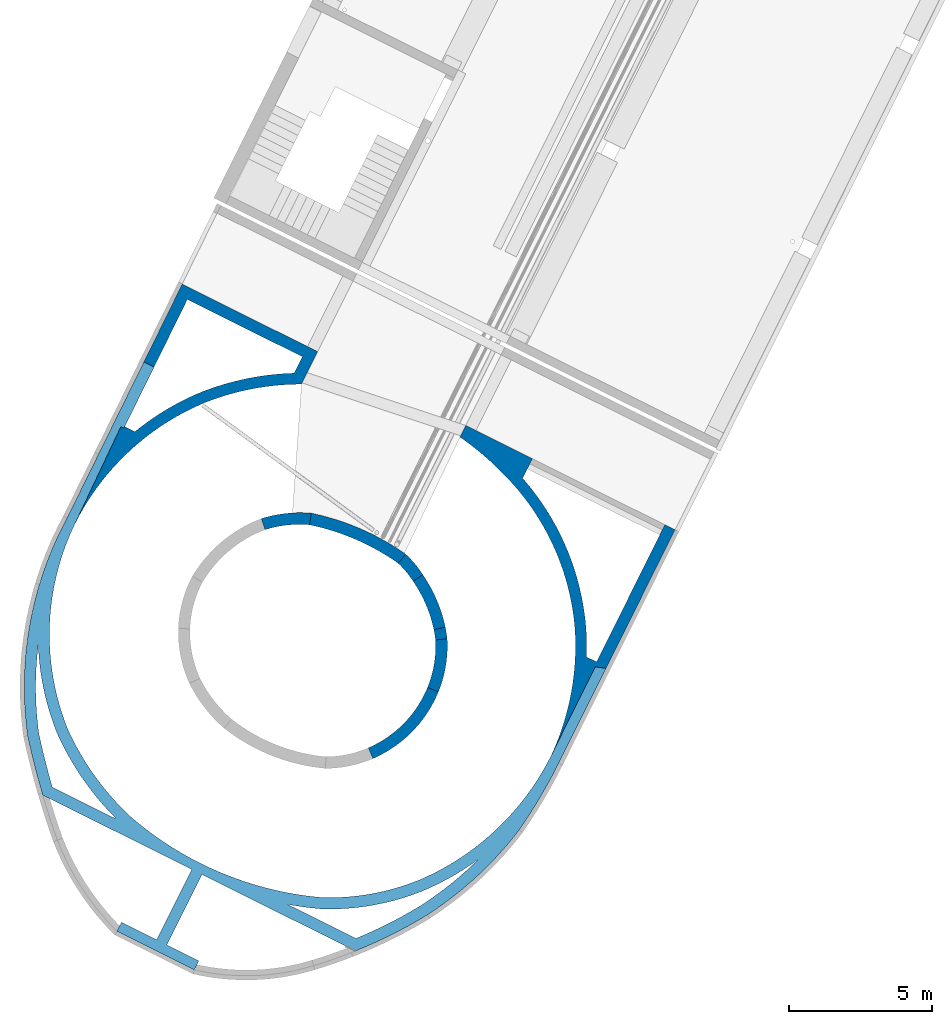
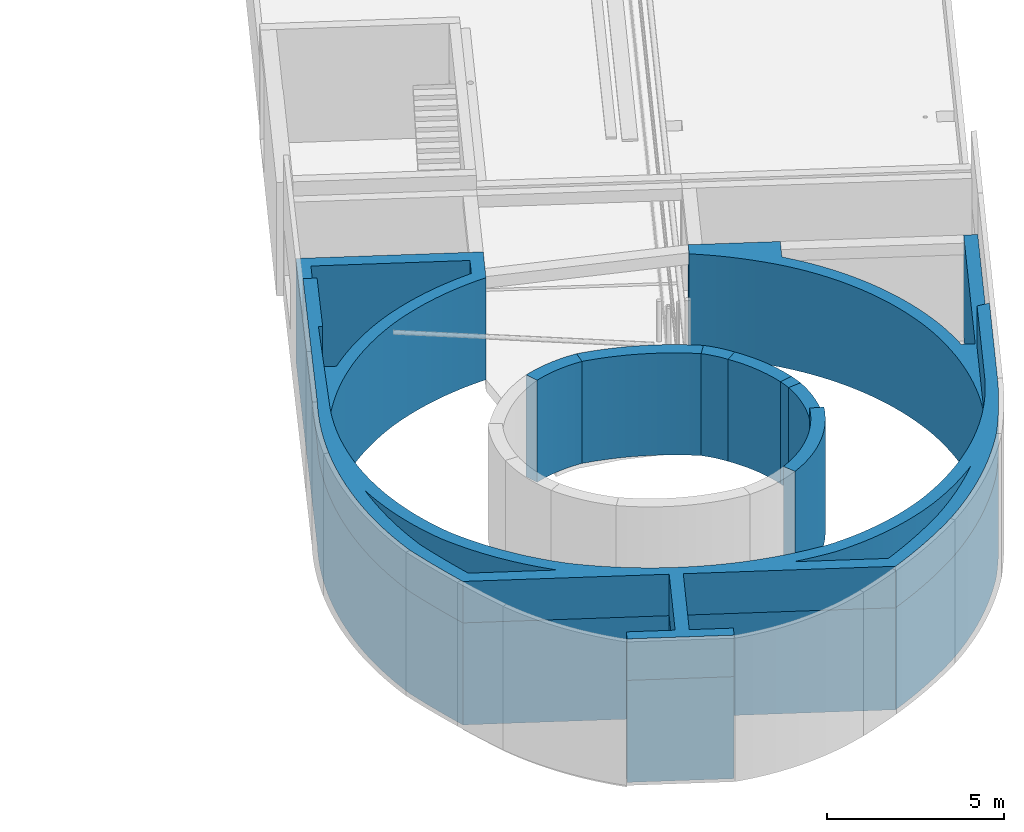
# One storey, part 6 of 47: 9 walls, 5 openings.
"""IFC2X3 building model written with IfcOpenShell, lengths in metres."""

from ifc_helpers import new_model, entity, si_unit, converted_unit, derived_unit, direction, frame, frame_2d, origin, place, context, subcontext, project, spatial, polyline, circle_curve, parameter, trimmed, segment, composite_curve, outline, extrude, material, layer, layer_set, layer_usage, type_object, element, save


model = new_model("IFC2X3")

# Units and contexts
model_context = context("Model", 3, precision=1e-05, world=origin(), true_north=direction((0.894925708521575, 0.446215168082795)))
context_of_model = context(None, 3, precision=1e-05, world=origin(), true_north=direction((0.894925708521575, 0.446215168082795)))
body_context = subcontext(model_context, "Body", "Model", "MODEL_VIEW")
ifc_project = project(units=[si_unit("LENGTHUNIT", "METRE"), si_unit("AREAUNIT", "SQUARE_METRE"), si_unit("VOLUMEUNIT", "CUBIC_METRE"), converted_unit("PLANEANGLEUNIT", "DEGREE", entity("IfcRatioMeasure", 0.0174532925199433), si_unit("PLANEANGLEUNIT", "RADIAN"), dimensions=[0, 0, 0, 0, 0, 0, 0]), si_unit("MASSUNIT", "GRAM", prefix="KILO"), si_unit("TIMEUNIT", "SECOND"), si_unit("FREQUENCYUNIT", "HERTZ"), si_unit("THERMODYNAMICTEMPERATUREUNIT", "DEGREE_CELSIUS"), derived_unit("THERMALTRANSMITTANCEUNIT", [(si_unit("MASSUNIT", "GRAM", prefix="KILO"), 1), (si_unit("THERMODYNAMICTEMPERATUREUNIT", "KELVIN"), -1), (si_unit("TIMEUNIT", "SECOND"), -3)]), derived_unit("VOLUMETRICFLOWRATEUNIT", [(si_unit("LENGTHUNIT", "METRE"), 3), (si_unit("TIMEUNIT", "SECOND"), -1)]), si_unit("ELECTRICCURRENTUNIT", "AMPERE"), si_unit("ELECTRICVOLTAGEUNIT", "VOLT"), si_unit("POWERUNIT", "WATT"), si_unit("FORCEUNIT", "NEWTON", prefix="KILO"), si_unit("ILLUMINANCEUNIT", "LUX"), si_unit("LUMINOUSFLUXUNIT", "LUMEN"), si_unit("LUMINOUSINTENSITYUNIT", "CANDELA"), si_unit("PRESSUREUNIT", "PASCAL")], contexts=[model_context, context_of_model])

# Site, building, storey
site_placement = place(None, frame((218.228324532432, 584.720189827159, 0.0), z_axis=(0.0, 0.0, 1.0), x_axis=(0.446215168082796, 0.894925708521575, 0.0)))
site = spatial("IfcSite", under=ifc_project, at=site_placement, Name="Default", CompositionType="ELEMENT")
building_placement = place(site_placement, origin())
building = spatial("IfcBuilding", under=site, at=building_placement, CompositionType="ELEMENT")
storey_placement = place(building_placement, frame((0.0, 0.0, 4.69)))
storey = spatial("IfcBuildingStorey", under=building, at=storey_placement, Name="1 - Piano Primo", CompositionType="ELEMENT", Elevation=4.69)

# Walls
ifc_material_1 = material(Name="Intonaco - Bianco")
ifc_layer_1 = layer(ifc_material_1, 0.01)
ifc_material_2 = material(Name="Default - Calcestruzzo")
ifc_layer_2 = layer(ifc_material_2, 0.4)
ifc_layer_set = layer_set([ifc_layer_1, ifc_layer_2], Name="Muro di base:Setto CA intonacato int - 41 cm")
ifc_layer_usage_1 = layer_usage(ifc_layer_set, "AXIS2", "POSITIVE", -0.205)
wall_type_1 = type_object("IfcWallType", Name="Muro di base:Setto CA intonacato int - 41 cm", PredefinedType="STANDARD", material=ifc_layer_set)
wall_1_placement = place(storey_placement, frame((-69.9977419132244, -0.185749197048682, 0.0), z_axis=(0.0, 0.0, 1.0), x_axis=(0.931448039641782, 0.363874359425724, 0.0)))
element("IfcWallStandardCase", 1, at=wall_1_placement, inside=storey, type_object=wall_type_1, material=ifc_layer_usage_1, Name="Muro di base:Setto CA intonacato int - 41 cm", ObjectType="Muro di base:Setto CA intonacato int - 41 cm", context=body_context, shape_type="SweptSolid", body=[
    extrude(outline(composite_curve([segment(trimmed(circle_curve(frame_2d((-3.94564680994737, -1.65081916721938), x_axis=(1.0, 0.0)), 4.48207057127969), [parameter(359.999999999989)], [parameter(22.7039466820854)], True, "PARAMETER"), True, "CONTINUOUS"), segment(polyline([(0.189114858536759, 0.0791237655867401), (-0.18479960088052, -0.089477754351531)]), True, "CONTINUOUS"), segment(trimmed(circle_curve(frame_2d((-3.94564680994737, -1.65081916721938), x_axis=(1.0, 0.0)), 4.07207057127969), [parameter(0.320799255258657)], [parameter(22.5461152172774)], True, "PARAMETER"), False, "CONTINUOUS"), segment(polyline([(0.126359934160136, -1.62801975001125), (0.536423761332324, -1.65081916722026)]), True, "CONTINUOUS")], self_intersect=False)), origin(), (0.0, 0.0, 1.0), 3.52),
])
ifc_layer_usage_2 = layer_usage(ifc_layer_set, "AXIS2", "POSITIVE", -0.205)
wall_2_placement = place(storey_placement, frame((-69.0955108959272, -1.58090963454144, 0.0), z_axis=(0.0, 0.0, 1.0), x_axis=(0.987965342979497, -0.154675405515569, 0.0)))
element("IfcWallStandardCase", 2, at=wall_2_placement, inside=storey, type_object=wall_type_1, material=ifc_layer_usage_2, Name="Muro di base:Setto CA intonacato int - 41 cm", ObjectType="Muro di base:Setto CA intonacato int - 41 cm", context=body_context, shape_type="SweptSolid", body=[
    extrude(outline(composite_curve([segment(trimmed(circle_curve(frame_2d((-7.83321910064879, -3.45390609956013), x_axis=(1.0, 0.0)), 8.7658871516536), [parameter(0.0480917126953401)], [parameter(23.7941509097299)], True, "PARAMETER"), True, "CONTINUOUS"), segment(polyline([(0.187575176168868, 0.0827076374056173), (-0.178182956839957, -0.10408942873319)]), True, "CONTINUOUS"), segment(trimmed(circle_curve(frame_2d((-7.83321910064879, -3.45390609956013), x_axis=(1.0, 0.0)), 8.3558871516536), [parameter(0.232952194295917)], [parameter(23.6340161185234)], True, "PARAMETER"), False, "CONTINUOUS"), segment(polyline([(0.522598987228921, -3.41993297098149), (0.932664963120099, -3.4465483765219)]), True, "CONTINUOUS")], self_intersect=False)), origin(), (0.0, 0.0, 1.0), 3.52),
])
ifc_layer_usage_3 = layer_usage(ifc_layer_set, "AXIS2", "POSITIVE", -0.205)
wall_3_placement = place(storey_placement, frame((-69.2599548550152, -5.88475513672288, 0.0), z_axis=(0.0, 0.0, 1.0), x_axis=(0.621195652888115, -0.78365551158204, 0.0)))
element("IfcWallStandardCase", 3, at=wall_3_placement, inside=storey, type_object=wall_type_1, material=ifc_layer_usage_3, Name="Muro di base:Setto CA intonacato int - 41 cm", ObjectType="Muro di base:Setto CA intonacato int - 41 cm", context=body_context, shape_type="SweptSolid", body=[
    extrude(outline(composite_curve([segment(trimmed(circle_curve(frame_2d((-4.51230855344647, -1.88864638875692), x_axis=(1.0, 0.0)), 5.09661667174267), [parameter(359.999999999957)], [parameter(22.6184181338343)], True, "PARAMETER"), True, "CONTINUOUS"), segment(polyline([(0.192310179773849, 0.0714719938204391), (-0.189103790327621, -0.079150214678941)]), True, "CONTINUOUS"), segment(trimmed(circle_curve(frame_2d((-4.51230855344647, -1.88864638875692), x_axis=(1.0, 0.0)), 4.68661667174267), [parameter(0.0199811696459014)], [parameter(22.7119601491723)], True, "PARAMETER"), False, "CONTINUOUS"), segment(polyline([(0.174307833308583, -1.88701199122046), (0.58430811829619, -1.88864638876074)]), True, "CONTINUOUS")], self_intersect=False)), origin(), (0.0, 0.0, 1.0), 3.52),
])
ifc_layer_usage_4 = layer_usage(ifc_layer_set, "AXIS2", "POSITIVE", -0.205)
wall_4_placement = place(storey_placement, frame((-68.9039863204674, -5.07290830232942, 0.0), z_axis=(0.0, 0.0, 1.0), x_axis=(0.856291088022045, -0.516493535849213, 0.0)))
element("IfcWallStandardCase", 4, at=wall_4_placement, inside=storey, type_object=wall_type_1, material=ifc_layer_usage_4, Name="Muro di base:Setto CA intonacato int - 41 cm", ObjectType="Muro di base:Setto CA intonacato int - 41 cm", context=body_context, shape_type="SweptSolid", body=[
    extrude(outline(composite_curve([segment(trimmed(circle_curve(frame_2d((-3.31517749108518, -0.879432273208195), x_axis=(1.0, 0.0)), 3.63484007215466), [parameter(6.41199823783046e-12)], [parameter(14.8569253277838)], True, "PARAMETER"), True, "CONTINUOUS"), segment(polyline([(0.198146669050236, 0.0525632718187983), (-0.191579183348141, -0.077729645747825)]), True, "CONTINUOUS"), segment(trimmed(circle_curve(frame_2d((-3.31517749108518, -0.879432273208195), x_axis=(1.0, 0.0)), 3.22484007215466), [parameter(359.86646942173)], [parameter(14.3948183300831)], True, "PARAMETER"), False, "CONTINUOUS"), segment(polyline([(-0.0903461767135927, -0.886947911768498), (0.319662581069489, -0.87943227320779)]), True, "CONTINUOUS")], self_intersect=False)), origin(), (0.0, 0.0, 1.0), 3.52),
])
ifc_layer_usage_5 = layer_usage(ifc_layer_set, "AXIS2", "POSITIVE", -0.205)
wall_5_placement = place(storey_placement, frame((-70.5030947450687, -7.35421167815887, 0.0), z_axis=(0.0, 0.0, 1.0), x_axis=(0.546021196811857, -0.837771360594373, 0.0)))
element("IfcWallStandardCase", 5, at=wall_5_placement, inside=storey, type_object=wall_type_1, material=ifc_layer_usage_5, Name="Muro di base:Setto CA intonacato int - 41 cm", ObjectType="Muro di base:Setto CA intonacato int - 41 cm", context=body_context, shape_type="SweptSolid", body=[
    extrude(outline(composite_curve([segment(trimmed(circle_curve(frame_2d((-4.6797065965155, -0.397294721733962), x_axis=(1.0, 0.0)), 4.90154095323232), [parameter(359.999999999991)], [parameter(4.85262404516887)], True, "PARAMETER"), True, "CONTINUOUS"), segment(polyline([(0.204265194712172, 0.0173415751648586), (-0.20412747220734, -0.0189673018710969)]), True, "CONTINUOUS"), segment(trimmed(circle_curve(frame_2d((-4.6797065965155, -0.397294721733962), x_axis=(1.0, 0.0)), 4.49154095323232), [parameter(0.151241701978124)], [parameter(4.83181138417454)], True, "PARAMETER"), False, "CONTINUOUS"), segment(polyline([(-0.188181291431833, -0.385438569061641), (0.221834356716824, -0.397294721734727)]), True, "CONTINUOUS")], self_intersect=False)), origin(), (0.0, 0.0, 1.0), 3.52),
])
ifc_layer_usage_6 = layer_usage(ifc_layer_set, "AXIS2", "POSITIVE", -0.205)
wall_6_placement = place(storey_placement, frame((-70.816668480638, -7.57908508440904, 0.0), z_axis=(0.0, 0.0, 1.0), x_axis=(0.075941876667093, -0.997112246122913, 0.0)))
element("IfcWallStandardCase", 6, at=wall_6_placement, inside=storey, type_object=wall_type_1, material=ifc_layer_usage_6, Name="Muro di base:Setto CA intonacato int - 41 cm", ObjectType="Muro di base:Setto CA intonacato int - 41 cm", context=body_context, shape_type="SweptSolid", body=[
    extrude(outline(composite_curve([segment(trimmed(circle_curve(frame_2d((-3.6742657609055, -1.74762819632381), x_axis=(1.0, 0.0)), 4.27371394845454), [parameter(359.999999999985)], [parameter(25.4376350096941)], True, "PARAMETER"), True, "CONTINUOUS"), segment(polyline([(0.185125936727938, 0.08805332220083), (-0.180083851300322, -0.0986957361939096)]), True, "CONTINUOUS"), segment(trimmed(circle_curve(frame_2d((-3.6742657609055, -1.74762819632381), x_axis=(1.0, 0.0)), 3.86371394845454), [parameter(0.010228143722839)], [parameter(25.2630003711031)], True, "PARAMETER"), False, "CONTINUOUS"), segment(polyline([(0.189448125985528, -1.74693846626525), (0.599448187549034, -1.74762819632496)]), True, "CONTINUOUS")], self_intersect=False)), origin(), (0.0, 0.0, 1.0), 3.52),
])
ifc_layer_usage_7 = layer_usage(ifc_layer_set, "AXIS2", "POSITIVE", -0.205)
wall_7_placement = place(storey_placement, frame((-72.5286066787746, -8.10506112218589, 0.0), z_axis=(0.0, 0.0, 1.0), x_axis=(-0.644290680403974, -0.764780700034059, 0.0)))
element("IfcWallStandardCase", 7, at=wall_7_placement, inside=storey, type_object=wall_type_1, material=ifc_layer_usage_7, Name="Muro di base:Setto CA intonacato int - 41 cm", ObjectType="Muro di base:Setto CA intonacato int - 41 cm", context=body_context, shape_type="SweptSolid", body=[
    extrude(outline(composite_curve([segment(trimmed(circle_curve(frame_2d((-2.96750184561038, -2.89333629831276), x_axis=(1.0, 0.0)), 4.34957019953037), [parameter(3.40955461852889e-12)], [parameter(44.274993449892)], True, "PARAMETER"), True, "CONTINUOUS"), segment(polyline([(0.146779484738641, 0.143111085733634), (-0.14629758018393, -0.143605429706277)]), True, "CONTINUOUS"), segment(trimmed(circle_curve(frame_2d((-2.96750184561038, -2.89333629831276), x_axis=(1.0, 0.0)), 3.93957019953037), [parameter(0.0104167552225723)], [parameter(44.2649529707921)], True, "PARAMETER"), False, "CONTINUOUS"), segment(polyline([(0.972068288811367, -2.89262005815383), (1.38206835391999, -2.8933362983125)]), True, "CONTINUOUS")], self_intersect=False)), origin(), (0.0, 0.0, 1.0), 3.92),
])

# Wall, openings
ifc_material_3 = material(Name="Calcestruzzo, gettato in opera")
wall_type_2 = type_object("IfcWallType", Name="Setto Sx:Setto Sx", PredefinedType="NOTDEFINED", material=ifc_material_3)
wall_8_placement = place(storey_placement, frame((-85.0499797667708, -13.2010845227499, 0.0)))
wall_8 = element("IfcWall", 8, at=wall_8_placement, inside=storey, type_object=wall_type_2, material=ifc_material_3, Name="Setto Sx:Setto Sx", ObjectType="Setto Sx:Setto Sx", context=body_context, shape_type="SweptSolid", body=[
    extrude(outline(composite_curve([segment(trimmed(circle_curve(frame_2d((1.61497129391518, -1.31652903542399), x_axis=(1.0, 0.0)), 12.4450089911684), [parameter(88.0794937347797)], [parameter(124.410732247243)], True, "PARAMETER"), True, "CONTINUOUS"), segment(trimmed(circle_curve(frame_2d((13.1042641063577, -14.1672267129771), x_axis=(1.0, 0.0)), 29.6228237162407), [parameter(128.701939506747)], [parameter(132.84553799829)], True, "PARAMETER"), True, "CONTINUOUS"), segment(polyline([(-7.03997435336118, 7.55192018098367), (-7.03997435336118, 1.71306555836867)]), True, "CONTINUOUS"), segment(polyline([(-7.03997435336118, 1.71306555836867), (-9.79997435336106, 1.71306555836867)]), True, "CONTINUOUS"), segment(polyline([(-9.79997435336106, 1.71306555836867), (-9.79997435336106, 3.09306555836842)]), True, "CONTINUOUS"), segment(polyline([(-9.79997435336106, 3.09306555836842), (-10.149974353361, 3.09306555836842)]), True, "CONTINUOUS"), segment(polyline([(-10.149974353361, 3.09306555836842), (-10.149974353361, 0.0630655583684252)]), True, "CONTINUOUS"), segment(polyline([(-10.149974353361, 0.0630655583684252), (-10.0362222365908, 0.0630655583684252)]), True, "CONTINUOUS"), segment(polyline([(-10.0362222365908, 0.0630655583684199), (-9.94932896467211, 0.0842204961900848)]), True, "CONTINUOUS"), segment(trimmed(circle_curve(frame_2d((-2.30033802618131, 1.94643518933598), x_axis=(1.0, 0.0)), 7.8724142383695), [parameter(193.682970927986)], [parameter(193.841488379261)], True, "PARAMETER"), True, "CONTINUOUS"), segment(polyline([(-9.94414759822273, 0.0630655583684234), (-9.79997435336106, 0.0630655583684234)]), True, "CONTINUOUS"), segment(polyline([(-9.79997435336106, 0.0630655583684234), (-9.79997435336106, 1.31306555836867)]), True, "CONTINUOUS"), segment(polyline([(-9.79997435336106, 1.31306555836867), (-7.03997435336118, 1.31306555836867)]), True, "CONTINUOUS"), segment(polyline([(-7.03997435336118, 1.31306555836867), (-7.03997435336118, -4.69637129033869)]), True, "CONTINUOUS"), segment(trimmed(circle_curve(frame_2d((4.24951470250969, 8.0179442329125), x_axis=(1.0, 0.0)), 17.0031286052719), [parameter(228.396997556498)], [parameter(237.906736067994)], True, "PARAMETER"), True, "CONTINUOUS"), segment(trimmed(circle_curve(frame_2d((1.70182802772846, 4.54631705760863), x_axis=(1.0, 0.0)), 12.7123127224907), [parameter(239.321609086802)], [parameter(259.18799196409)], True, "PARAMETER"), True, "CONTINUOUS"), segment(trimmed(circle_curve(frame_2d((2.07223064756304, 11.2591554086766), x_axis=(1.0, 0.0)), 19.3961465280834), [parameter(261.833968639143)], [parameter(269.868414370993)], True, "PARAMETER"), True, "CONTINUOUS"), segment(polyline([(2.02768544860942, -8.13693996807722), (11.1705560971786, -8.13693996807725)]), True, "CONTINUOUS"), segment(polyline([(11.1705560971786, -8.13693996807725), (11.1705560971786, -7.73693996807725)]), True, "CONTINUOUS"), segment(polyline([(11.1705560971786, -7.73693996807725), (5.80055609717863, -7.73693996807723)]), True, "CONTINUOUS"), segment(polyline([(5.80055609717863, -7.73693996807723), (5.80055609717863, -7.33959232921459)]), True, "CONTINUOUS"), segment(trimmed(circle_curve(frame_2d((1.90838600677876, 1.33783411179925), x_axis=(1.0, 0.0)), 9.51034792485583), [parameter(294.158127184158)], [parameter(299.908782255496)], True, "PARAMETER"), True, "CONTINUOUS"), segment(trimmed(circle_curve(frame_2d((2.02830832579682, 0.872091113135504), x_axis=(1.0, 0.0)), 9.04774608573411), [parameter(300.721142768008)], [parameter(337.797140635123)], True, "PARAMETER"), True, "CONTINUOUS"), segment(polyline([(10.4051796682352, -2.54693444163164), (11.1705560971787, -2.54693444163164)]), True, "CONTINUOUS"), segment(polyline([(11.1705560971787, -2.54693444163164), (11.1705560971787, 0.0630655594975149)]), True, "CONTINUOUS"), segment(polyline([(11.1705560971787, 0.0630655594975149), (10.7169043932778, 0.0630655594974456)]), True, "CONTINUOUS"), segment(trimmed(circle_curve(frame_2d((0.439739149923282, 1.56592837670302), x_axis=(1.0, 0.0)), 10.3864682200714), [parameter(340.282816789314)], [parameter(351.680422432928)], True, "PARAMETER"), False, "CONTINUOUS"), segment(trimmed(circle_curve(frame_2d((2.02830832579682, 0.872091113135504), x_axis=(1.0, 0.0)), 8.65774608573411), [parameter(300.739430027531)], [parameter(341.058517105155)], True, "PARAMETER"), False, "CONTINUOUS"), segment(trimmed(circle_curve(frame_2d((1.90838600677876, 1.33783411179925), x_axis=(1.0, 0.0)), 9.12034792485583), [parameter(271.794499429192)], [parameter(299.89140355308)], True, "PARAMETER"), False, "CONTINUOUS"), segment(trimmed(circle_curve(frame_2d((2.14136595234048, 1.41630801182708), x_axis=(1.0, 0.0)), 9.19449952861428), [parameter(230.13814973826)], [parameter(270.327916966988)], True, "PARAMETER"), False, "CONTINUOUS"), segment(trimmed(circle_curve(frame_2d((1.76525949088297, 0.742026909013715), x_axis=(1.0, 0.0)), 8.4370855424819), [parameter(205.299039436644)], [parameter(229.163761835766)], True, "PARAMETER"), False, "CONTINUOUS"), segment(trimmed(circle_curve(frame_2d((5.05216504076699, 1.52776189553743), x_axis=(1.0, 0.0)), 11.7650233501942), [parameter(165.274958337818)], [parameter(201.916020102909)], True, "PARAMETER"), False, "CONTINUOUS"), segment(trimmed(circle_curve(frame_2d((2.90128145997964, 1.71121742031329), x_axis=(1.0, 0.0)), 9.64522280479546), [parameter(140.961029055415)], [parameter(163.080761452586)], True, "PARAMETER"), False, "CONTINUOUS"), segment(trimmed(circle_curve(frame_2d((2.06386667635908, 1.90112960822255), x_axis=(1.0, 0.0)), 8.88330053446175), [parameter(90.6059649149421)], [parameter(138.509755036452)], True, "PARAMETER"), False, "CONTINUOUS"), segment(trimmed(circle_curve(frame_2d((1.95980901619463, 1.85710958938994), x_axis=(1.0, 0.0)), 8.92682946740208), [parameter(48.9841382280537)], [parameter(89.9351173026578)], True, "PARAMETER"), False, "CONTINUOUS"), segment(trimmed(circle_curve(frame_2d((1.6435343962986, 1.73675813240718), x_axis=(1.0, 0.0)), 9.22658032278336), [parameter(26.5654348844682)], [parameter(47.992651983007)], True, "PARAMETER"), False, "CONTINUOUS"), segment(polyline([(9.89601108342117, 5.86306555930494), (11.1705560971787, 5.86306555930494)]), True, "CONTINUOUS"), segment(polyline([(11.1705560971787, 5.86306555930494), (11.1705560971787, 11.1687425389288)]), True, "CONTINUOUS"), segment(polyline([(11.1705560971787, 11.1687425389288), (2.03203940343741, 11.1214894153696)]), True, "CONTINUOUS")], self_intersect=False)), frame((10.149974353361, 8.13693996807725, 0.0)), (0.0, 0.0, 1.0), 3.52),
])
opening_1_placement = place(storey_placement, frame((-85.0499797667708, -13.2010845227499, 0.0)))
element("IfcOpeningElement", 9, at=opening_1_placement, cuts=wall_8, Name="Setto Sx:Setto Sx:1", ObjectType="Opening", context=body_context, shape_type="SweptSolid", body=[
    extrude(outline(composite_curve([segment(polyline([(-1.86364935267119, 2.75731244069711), (-1.88934805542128, -2.21268755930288)]), True, "CONTINUOUS"), segment(polyline([(-1.88934805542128, -2.21268755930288), (2.61425527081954, -2.21268755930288)]), True, "CONTINUOUS"), segment(polyline([(2.61425527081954, -2.21268755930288), (2.61425527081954, -1.5704262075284)]), True, "CONTINUOUS"), segment(trimmed(circle_curve(frame_2d((7.1405626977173, 6.91433414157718), x_axis=(0.0, -1.0)), 9.61658032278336), [parameter(311.987249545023)], [parameter(331.921720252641)], True, "PARAMETER"), False, "CONTINUOUS"), segment(trimmed(circle_curve(frame_2d((7.02021124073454, 6.59805952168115), x_axis=(0.0, -1.0)), 9.31682946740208), [parameter(294.345472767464)], [parameter(311.036620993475)], True, "PARAMETER"), False, "CONTINUOUS"), segment(polyline([(-1.46813213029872, 2.75731244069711), (-1.86364935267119, 2.75731244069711)]), True, "CONTINUOUS")], self_intersect=False)), frame((18.7078428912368, 17.0142607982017, 0.0), z_axis=(0.0, 0.0, -1.0), x_axis=(0.0, -1.0, 0.0)), (0.0, 0.0, -1.0), 3.52),
])
opening_2_placement = place(storey_placement, frame((-85.0499797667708, -13.2010845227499, 0.0)))
element("IfcOpeningElement", 10, at=opening_2_placement, cuts=wall_8, Name="Setto Sx:Setto Sx:2", ObjectType="Opening", context=body_context, shape_type="SweptSolid", body=[
    extrude(outline(composite_curve([segment(trimmed(circle_curve(frame_2d((6.82260704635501, -5.48815921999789), x_axis=(1.0, 0.0)), 8.83708545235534), [parameter(130.814110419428)], [parameter(154.777814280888)], True, "PARAMETER"), False, "CONTINUOUS"), segment(trimmed(circle_curve(frame_2d((7.19871337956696, -6.1624403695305), x_axis=(1.0, 0.0)), 9.59449952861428), [parameter(117.226421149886)], [parameter(129.882092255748)], True, "PARAMETER"), False, "CONTINUOUS"), segment(trimmed(circle_curve(frame_2d((6.75917545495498, -9.29244941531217), x_axis=(1.0, 0.0)), 12.3123127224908), [parameter(108.712455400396)], [parameter(120.655453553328)], True, "PARAMETER"), True, "CONTINUOUS"), segment(trimmed(circle_curve(frame_2d((9.30686212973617, -12.7640765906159), x_axis=(1.0, 0.0)), 16.6031286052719), [parameter(122.110343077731)], [parameter(130.985628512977)], True, "PARAMETER"), True, "CONTINUOUS"), segment(polyline([(-1.58262692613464, -0.230804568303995), (-1.58262692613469, -2.91507459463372)]), True, "CONTINUOUS"), segment(trimmed(circle_curve(frame_2d((10.1095124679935, -6.27389425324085), x_axis=(1.0, 0.0)), 12.1650233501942), [parameter(158.028540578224)], [parameter(163.972144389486)], True, "PARAMETER"), False, "CONTINUOUS")], self_intersect=False)), frame((5.09262692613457, 3.39080761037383, 0.0), z_axis=(0.0, 0.0, -1.0), x_axis=(1.0, 0.0, 0.0)), (0.0, 0.0, -1.0), 3.52),
])
opening_3_placement = place(storey_placement, frame((-85.0499797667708, -13.2010845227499, 0.0)))
element("IfcOpeningElement", 11, at=opening_3_placement, cuts=wall_8, Name="Setto Sx:Setto Sx:3", ObjectType="Opening", context=body_context, shape_type="SweptSolid", body=[
    extrude(outline(composite_curve([segment(trimmed(circle_curve(frame_2d((6.76717389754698, -9.10476491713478), x_axis=(1.0, 0.0)), 12.0450089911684), [parameter(109.500389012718)], [parameter(124.339784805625)], True, "PARAMETER"), True, "CONTINUOUS"), segment(trimmed(circle_curve(frame_2d((18.2564667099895, -21.9554625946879), x_axis=(1.0, 0.0)), 29.2228237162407), [parameter(128.731462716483)], [parameter(132.504214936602)], True, "PARAMETER"), True, "CONTINUOUS"), segment(polyline([(-1.48777174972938, -0.411589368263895), (-1.48777174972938, -2.93521054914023)]), True, "CONTINUOUS"), segment(trimmed(circle_curve(frame_2d((8.05348356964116, -6.07701845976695), x_axis=(1.0, 0.0)), 10.0452232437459), [parameter(140.912308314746)], [parameter(161.77397646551)], True, "PARAMETER"), False, "CONTINUOUS"), segment(trimmed(circle_curve(frame_2d((7.21606893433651, -5.88710626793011), x_axis=(1.0, 0.0)), 9.28330072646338), [parameter(118.781791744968)], [parameter(138.562672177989)], True, "PARAMETER"), False, "CONTINUOUS")], self_intersect=False)), frame((4.99777174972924, 15.925175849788, 0.0)), (0.0, 0.0, 1.0), 3.52),
])

wall_type_3 = type_object("IfcWallType", Name="Setto sx p2:Setto sx p2", PredefinedType="NOTDEFINED", material=ifc_material_3)
wall_9_placement = place(storey_placement, frame((-85.0499797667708, -13.2010845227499, 3.52), z_axis=(0.0, 0.0, 1.0), x_axis=(0.0, 1.0, 0.0)))
wall_9 = element("IfcWall", 12, at=wall_9_placement, inside=storey, type_object=wall_type_3, material=ifc_material_3, Name="Setto sx p2:Setto sx p2", ObjectType="Setto sx p2:Setto sx p2", context=body_context, shape_type="SweptSolid", body=[
    extrude(outline(composite_curve([segment(polyline([(-9.22887159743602, 8.90113034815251), (-9.10777602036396, 8.90113034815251)]), True, "CONTINUOUS"), segment(polyline([(-9.10777602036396, 8.90113034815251), (-9.12014918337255, 11.294037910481)]), True, "CONTINUOUS"), segment(polyline([(-9.12014918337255, 11.294037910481), (-9.52015453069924, 11.294037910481)]), True, "CONTINUOUS"), segment(polyline([(-9.52015453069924, 11.294037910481), (-9.48861803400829, 5.19503789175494)]), True, "CONTINUOUS"), segment(trimmed(circle_curve(frame_2d((2.9494004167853, 4.77796978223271), x_axis=(0.0, 1.0)), 12.4450089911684), [parameter(88.0794937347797)], [parameter(124.410732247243)], True, "PARAMETER"), True, "CONTINUOUS"), segment(trimmed(circle_curve(frame_2d((15.8000980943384, 16.2672625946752), x_axis=(0.0, 1.0)), 29.6228237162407), [parameter(128.701939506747)], [parameter(132.84553799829)], True, "PARAMETER"), True, "CONTINUOUS"), segment(polyline([(-5.91904879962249, -3.87697586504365), (-0.0801941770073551, -3.87697586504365)]), True, "CONTINUOUS"), segment(polyline([(-0.0801941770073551, -3.87697586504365), (-0.080194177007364, -6.63697586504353)]), True, "CONTINUOUS"), segment(polyline([(-0.080194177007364, -6.63697586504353), (-1.46019417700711, -6.63697586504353)]), True, "CONTINUOUS"), segment(polyline([(-1.46019417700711, -6.63697586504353), (-1.46019417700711, -6.98697586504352)]), True, "CONTINUOUS"), segment(polyline([(-1.46019417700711, -6.98697586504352), (1.56980582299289, -6.98697586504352)]), True, "CONTINUOUS"), segment(polyline([(1.56980582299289, -6.98697586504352), (1.56980582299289, -6.87322374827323)]), True, "CONTINUOUS"), segment(polyline([(1.56980582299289, -6.87322374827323), (1.56980582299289, -6.7811491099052)]), True, "CONTINUOUS"), segment(polyline([(1.56980582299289, -6.7811491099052), (1.56980582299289, -6.63697586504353)]), True, "CONTINUOUS"), segment(polyline([(1.56980582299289, -6.63697586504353), (0.319805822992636, -6.63697586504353)]), True, "CONTINUOUS"), segment(polyline([(0.319805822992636, -6.63697586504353), (0.319805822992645, -3.87697586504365)]), True, "CONTINUOUS"), segment(polyline([(0.319805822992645, -3.87697586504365), (6.3292426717, -3.87697586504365)]), True, "CONTINUOUS"), segment(trimmed(circle_curve(frame_2d((-6.38507285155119, 7.41251319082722), x_axis=(0.0, 1.0)), 17.0031286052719), [parameter(228.396997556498)], [parameter(237.906736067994)], True, "PARAMETER"), True, "CONTINUOUS"), segment(trimmed(circle_curve(frame_2d((-2.91344567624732, 4.86482651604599), x_axis=(0.0, 1.0)), 12.7123127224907), [parameter(239.321609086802)], [parameter(259.18799196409)], True, "PARAMETER"), True, "CONTINUOUS"), segment(trimmed(circle_curve(frame_2d((-9.62628402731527, 5.23522913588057), x_axis=(0.0, 1.0)), 19.3961465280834), [parameter(261.833968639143)], [parameter(269.868414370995)], True, "PARAMETER"), True, "CONTINUOUS"), segment(polyline([(9.76981134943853, 5.19068393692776), (9.76981134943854, 8.90858410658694)]), True, "CONTINUOUS"), segment(polyline([(9.76981134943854, 8.90858410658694), (9.4109123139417, 8.78479549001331)]), True, "CONTINUOUS"), segment(polyline([(9.4109123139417, 8.78479549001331), (9.41091231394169, 5.35698639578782)]), True, "CONTINUOUS"), segment(trimmed(circle_curve(frame_2d((0.216563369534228, 5.30436444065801), x_axis=(0.0, 1.0)), 9.19449952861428), [parameter(230.13814973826)], [parameter(270.327916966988)], True, "PARAMETER"), False, "CONTINUOUS"), segment(trimmed(circle_curve(frame_2d((0.890844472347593, 4.9282579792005), x_axis=(0.0, 1.0)), 8.4370855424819), [parameter(205.299039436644)], [parameter(229.163761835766)], True, "PARAMETER"), False, "CONTINUOUS"), segment(trimmed(circle_curve(frame_2d((0.105109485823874, 8.21516352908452), x_axis=(0.0, 1.0)), 11.7650233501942), [parameter(165.274958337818)], [parameter(201.916020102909)], True, "PARAMETER"), False, "CONTINUOUS"), segment(trimmed(circle_curve(frame_2d((-0.078346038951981, 6.06427994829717), x_axis=(0.0, 1.0)), 9.64522280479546), [parameter(140.961029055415)], [parameter(163.080761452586)], True, "PARAMETER"), False, "CONTINUOUS"), segment(trimmed(circle_curve(frame_2d((-0.268258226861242, 5.22686516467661), x_axis=(0.0, 1.0)), 8.88330053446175), [parameter(90.6059649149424)], [parameter(138.509755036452)], True, "PARAMETER"), False, "CONTINUOUS"), segment(polyline([(-9.15106195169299, 5.13291639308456), (-9.22887159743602, 8.90113034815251)]), True, "CONTINUOUS")], self_intersect=False)), frame((9.76981134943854, -6.98697586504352, 0.0), z_axis=(0.0, 0.0, 1.0), x_axis=(-1.0, 0.0, 0.0)), (0.0, 0.0, 1.0), 1.43),
])
opening_4_placement = place(storey_placement, frame((-85.0499797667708, -13.2010845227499, 3.52), z_axis=(0.0, 0.0, 1.0), x_axis=(0.0, 1.0, 0.0)))
element("IfcOpeningElement", 13, at=opening_4_placement, cuts=wall_9, Name="Setto sx p2:Setto sx p2:1", ObjectType="Opening", context=body_context, shape_type="SweptSolid", body=[
    extrude(outline(composite_curve([segment(trimmed(circle_curve(frame_2d((6.767173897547, -9.1047649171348), x_axis=(1.0, 0.0)), 12.0450089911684), [parameter(109.500389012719)], [parameter(124.339784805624)], True, "PARAMETER"), True, "CONTINUOUS"), segment(trimmed(circle_curve(frame_2d((18.2564667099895, -21.9554625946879), x_axis=(1.0, 0.0)), 29.2228237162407), [parameter(128.731462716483)], [parameter(132.504214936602)], True, "PARAMETER"), True, "CONTINUOUS"), segment(polyline([(-1.48777174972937, -0.411589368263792), (-1.48777174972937, -2.93521054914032)]), True, "CONTINUOUS"), segment(trimmed(circle_curve(frame_2d((8.05348356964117, -6.07701845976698), x_axis=(1.0, 0.0)), 10.0452232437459), [parameter(140.912308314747)], [parameter(161.77397646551)], True, "PARAMETER"), False, "CONTINUOUS"), segment(trimmed(circle_curve(frame_2d((7.21606893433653, -5.88710626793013), x_axis=(1.0, 0.0)), 9.28330072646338), [parameter(118.781791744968)], [parameter(138.56267217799)], True, "PARAMETER"), False, "CONTINUOUS")], self_intersect=False)), frame((15.925175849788, -4.99777174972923, 0.0), z_axis=(0.0, 0.0, 1.0), x_axis=(0.0, -1.0, 0.0)), (0.0, 0.0, 1.0), 1.43),
])
opening_5_placement = place(storey_placement, frame((-85.0499797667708, -13.2010845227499, 3.52), z_axis=(0.0, 0.0, 1.0), x_axis=(0.0, 1.0, 0.0)))
element("IfcOpeningElement", 14, at=opening_5_placement, cuts=wall_9, Name="Setto sx p2:Setto sx p2:2", ObjectType="Opening", context=body_context, shape_type="SweptSolid", body=[
    extrude(outline(composite_curve([segment(polyline([(-2.91507459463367, -1.5826269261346), (-0.230804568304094, -1.5826269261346)]), True, "CONTINUOUS"), segment(trimmed(circle_curve(frame_2d((-12.7640765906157, 9.30686212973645), x_axis=(0.0, 1.0)), 16.6031286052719), [parameter(229.014371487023)], [parameter(237.889656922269)], True, "PARAMETER"), True, "CONTINUOUS"), segment(trimmed(circle_curve(frame_2d((-9.29244941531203, 6.7591754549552), x_axis=(0.0, 1.0)), 12.3123127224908), [parameter(239.344546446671)], [parameter(251.287544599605)], True, "PARAMETER"), True, "CONTINUOUS"), segment(trimmed(circle_curve(frame_2d((-6.16244036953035, 7.19871337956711), x_axis=(0.0, 1.0)), 9.59449952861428), [parameter(230.117907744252)], [parameter(242.773578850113)], True, "PARAMETER"), False, "CONTINUOUS"), segment(trimmed(circle_curve(frame_2d((-5.48815921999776, 6.82260704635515), x_axis=(0.0, 1.0)), 8.83708545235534), [parameter(205.222185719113)], [parameter(229.185889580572)], True, "PARAMETER"), False, "CONTINUOUS"), segment(trimmed(circle_curve(frame_2d((-6.27389425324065, 10.1095124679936), x_axis=(0.0, 1.0)), 12.1650233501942), [parameter(196.027855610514)], [parameter(201.971459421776)], True, "PARAMETER"), False, "CONTINUOUS")], self_intersect=False)), frame((3.39080761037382, -5.09262692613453, 0.0), z_axis=(0.0, 0.0, 1.0), x_axis=(-1.0, 0.0, 0.0)), (0.0, 0.0, 1.0), 1.43),
])

save(model, "model.ifc")
